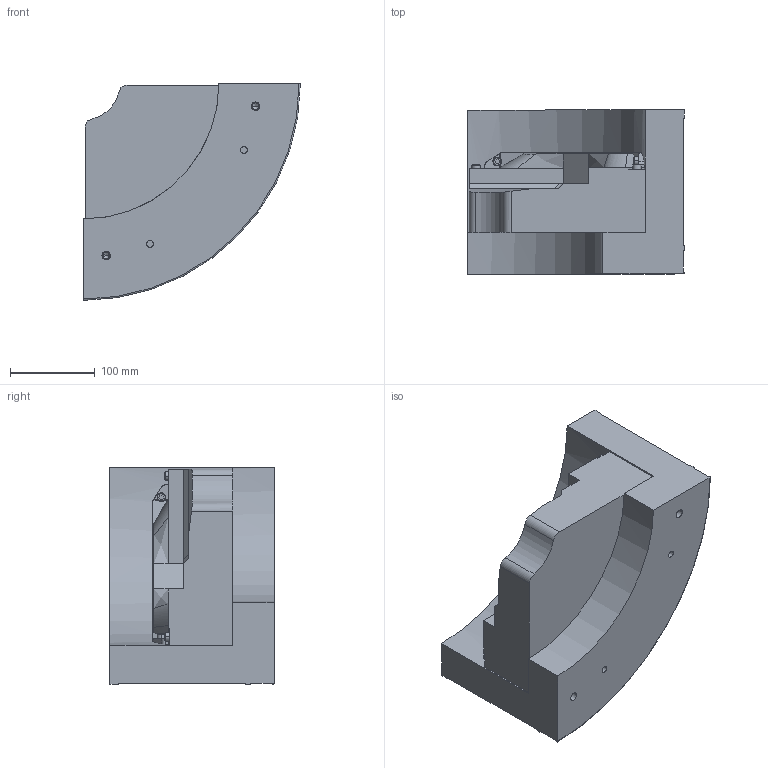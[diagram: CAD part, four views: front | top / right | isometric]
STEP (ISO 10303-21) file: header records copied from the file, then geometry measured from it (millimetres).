
FILE_DESCRIPTION((''),'2;1');
FILE_NAME('W0001033012','2024-08-14T11:41:53',('RRajan1'),('Rockwell Automation'),'CREO PARAMETRIC BY PTC INC, 2020281','CREO PARAMETRIC BY PTC INC, 2020281','');
FILE_SCHEMA(('CONFIG_CONTROL_DESIGN'));
Length unit declared in the file: millimetre
Products named in the file (1): W0001033012
Bounding box: 256.03 x 194 x 256.03 mm (x, y, z)
Volume: 6015272.9 mm3; surface area: 285220.2 mm2
Topology: 1 solids, 1 shells, 194 faces, 494 edges, 318 vertices
Faces by surface type: plane 87, cylinder 56, extrusion 26, cone 13, bspline 11, revolution 1
Entity records: 7351 total; most frequent: CARTESIAN_POINT 2766, ORIENTED_EDGE 972, DIRECTION 849, EDGE_CURVE 486, VERTEX_POINT 318, VECTOR 304, LINE 278, AXIS2_PLACEMENT_3D 272
